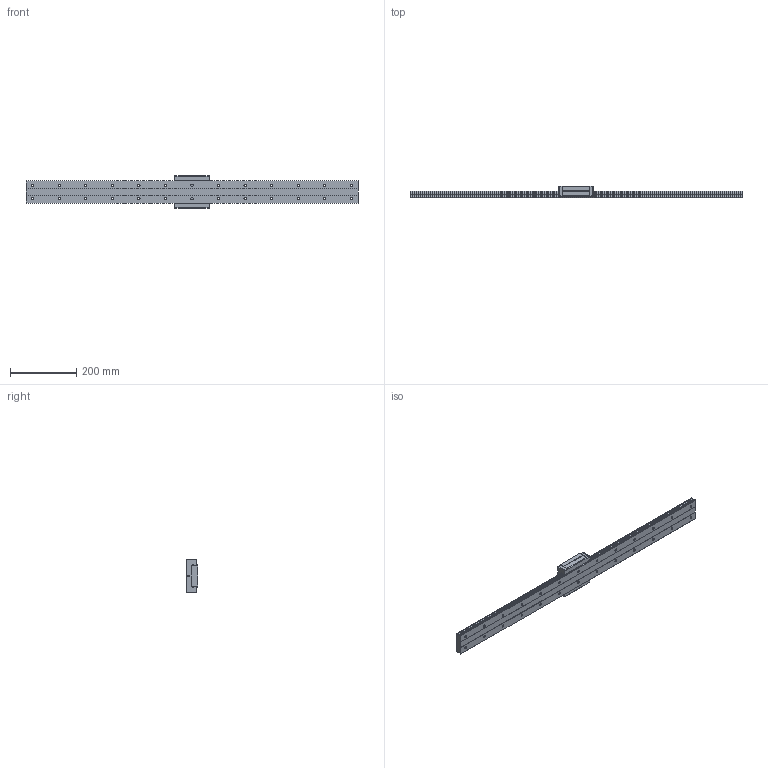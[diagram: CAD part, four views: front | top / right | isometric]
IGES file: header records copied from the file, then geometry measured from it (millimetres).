
Start section: Data from XPlus IGES,  Spatial Corp. Copyright (c) 1999-2004
Global section: file name: SHW35CR1UU1000200446.5000.igs; native system:  By Spatial Corp.; preprocessor: XPlus ACIS/IGES 3.0; author: Noname; organization: Noname; date: 20161110.134636; units: millimetre
Bounding box: 1000 x 35 x 100 mm (x, y, z)
Surface area: 229837.1 mm2 (no closed solid volume)
Topology: 0 solids, 0 shells, 304 faces, 1524 edges, 1508 vertices
Faces by surface type: revolution 188, extrusion 116
